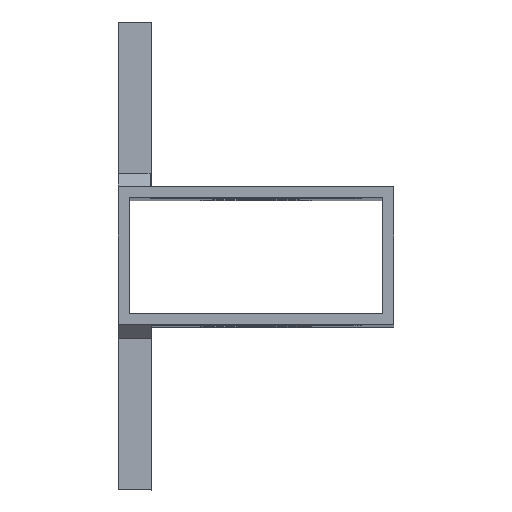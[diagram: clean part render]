
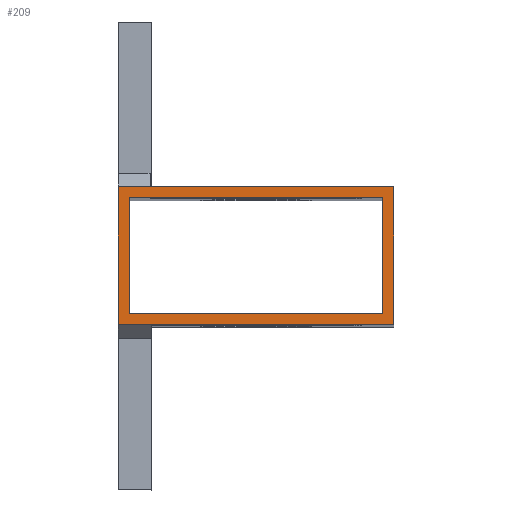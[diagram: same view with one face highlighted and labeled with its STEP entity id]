
A CAD part, top view. The second image highlights one B-rep face of the part: STEP entity #209.
In plain terms, the highlighted planar face has unit normal (0, 0, 1).
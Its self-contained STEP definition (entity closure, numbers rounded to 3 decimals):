
#209 = ADVANCED_FACE( '', ( #538, #539 ), #540, .T. );
#538 = FACE_BOUND( '', #974, .T. );
#539 = FACE_OUTER_BOUND( '', #975, .T. );
#540 = PLANE( '', #976 );
#974 = EDGE_LOOP( '', ( #1621, #1622, #1623, #1624 ) );
#975 = EDGE_LOOP( '', ( #1625, #1626, #1627, #1628 ) );
#976 = AXIS2_PLACEMENT_3D( '', #1629, #1630, #1631 );
#1621 = ORIENTED_EDGE( '', *, *, #2191, .F. );
#1622 = ORIENTED_EDGE( '', *, *, #2072, .F. );
#1623 = ORIENTED_EDGE( '', *, *, #2145, .F. );
#1624 = ORIENTED_EDGE( '', *, *, #2252, .F. );
#1625 = ORIENTED_EDGE( '', *, *, #2112, .T. );
#1626 = ORIENTED_EDGE( '', *, *, #2253, .T. );
#1627 = ORIENTED_EDGE( '', *, *, #2254, .T. );
#1628 = ORIENTED_EDGE( '', *, *, #2239, .T. );
#1629 = CARTESIAN_POINT( '', ( 0., 0., 620. ) );
#1630 = DIRECTION( '', ( 0., 0., 1. ) );
#1631 = DIRECTION( '', ( 1., 0., 0. ) );
#2072 = EDGE_CURVE( '', #2430, #2432, #2433, .T. );
#2112 = EDGE_CURVE( '', #2481, #2504, #2506, .T. );
#2145 = EDGE_CURVE( '', #2559, #2430, #2561, .T. );
#2191 = EDGE_CURVE( '', #2432, #2632, #2636, .T. );
#2239 = EDGE_CURVE( '', #2712, #2481, #2713, .T. );
#2252 = EDGE_CURVE( '', #2632, #2559, #2730, .T. );
#2253 = EDGE_CURVE( '', #2504, #2731, #2732, .T. );
#2254 = EDGE_CURVE( '', #2731, #2712, #2733, .T. );
#2430 = VERTEX_POINT( '', #2953 );
#2432 = VERTEX_POINT( '', #2956 );
#2433 = LINE( '', #2957, #2958 );
#2481 = VERTEX_POINT( '', #3013 );
#2504 = VERTEX_POINT( '', #3048 );
#2506 = LINE( '', #3051, #3052 );
#2559 = VERTEX_POINT( '', #3116 );
#2561 = LINE( '', #3119, #3120 );
#2632 = VERTEX_POINT( '', #3202 );
#2636 = LINE( '', #3208, #3209 );
#2712 = VERTEX_POINT( '', #3300 );
#2713 = LINE( '', #3301, #3302 );
#2730 = LINE( '', #3326, #3327 );
#2731 = VERTEX_POINT( '', #3328 );
#2732 = LINE( '', #3329, #3330 );
#2733 = LINE( '', #3331, #3332 );
#2953 = CARTESIAN_POINT( '', ( 96., 4., 620. ) );
#2956 = CARTESIAN_POINT( '', ( 96., 46., 620. ) );
#2957 = CARTESIAN_POINT( '', ( 96., 4., 620. ) );
#2958 = VECTOR( '', #3532, 1000. );
#3013 = CARTESIAN_POINT( '', ( 0., 50., 620. ) );
#3048 = CARTESIAN_POINT( '', ( 0., 0., 620. ) );
#3051 = CARTESIAN_POINT( '', ( 0., 50., 620. ) );
#3052 = VECTOR( '', #3598, 1000. );
#3116 = CARTESIAN_POINT( '', ( 4., 4., 620. ) );
#3119 = CARTESIAN_POINT( '', ( 4., 4., 620. ) );
#3120 = VECTOR( '', #3656, 1000. );
#3202 = CARTESIAN_POINT( '', ( 4., 46., 620. ) );
#3208 = CARTESIAN_POINT( '', ( 96., 46., 620. ) );
#3209 = VECTOR( '', #3727, 1000. );
#3300 = CARTESIAN_POINT( '', ( 100., 50., 620. ) );
#3301 = CARTESIAN_POINT( '', ( 100., 50., 620. ) );
#3302 = VECTOR( '', #3809, 1000. );
#3326 = CARTESIAN_POINT( '', ( 4., 46., 620. ) );
#3327 = VECTOR( '', #3823, 1000. );
#3328 = CARTESIAN_POINT( '', ( 100., 0., 620. ) );
#3329 = CARTESIAN_POINT( '', ( 0., 0., 620. ) );
#3330 = VECTOR( '', #3824, 1000. );
#3331 = CARTESIAN_POINT( '', ( 100., 0., 620. ) );
#3332 = VECTOR( '', #3825, 1000. );
#3532 = DIRECTION( '', ( 0., 1., 0. ) );
#3598 = DIRECTION( '', ( 0., -1., 0. ) );
#3656 = DIRECTION( '', ( 1., 0., 0. ) );
#3727 = DIRECTION( '', ( -1., 0., 0. ) );
#3809 = DIRECTION( '', ( -1., 0., 0. ) );
#3823 = DIRECTION( '', ( 0., -1., 0. ) );
#3824 = DIRECTION( '', ( 1., 0., 0. ) );
#3825 = DIRECTION( '', ( 0., 1., 0. ) );
